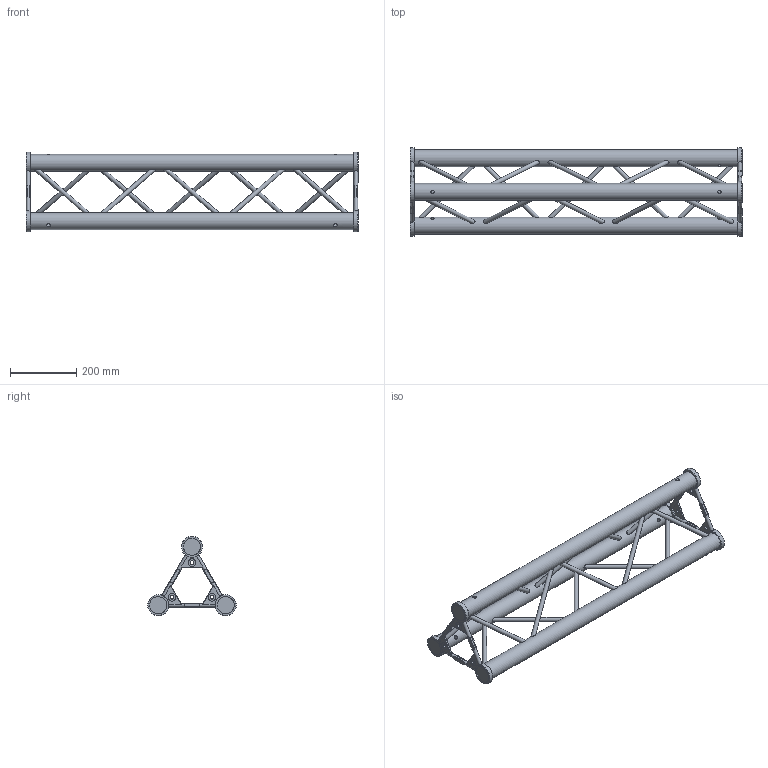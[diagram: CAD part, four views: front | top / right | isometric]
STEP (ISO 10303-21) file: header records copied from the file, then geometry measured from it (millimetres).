
FILE_DESCRIPTION(/* description */ (''),/* implementation_level */ '2;1');
FILE_NAME(/* name */ 'C:\Users\stephan\Desktop\A03\112040014.stp',/* time_stamp */ '2016-01-20T14:32:11+01:00',/* author */ ('Stephan'),/* organization */ (''),/* preprocessor_version */ 'ST-DEVELOPER v15.6',/* originating_system */ 'Autodesk Inventor 2015',/* authorisation */ '');
FILE_SCHEMA (('AUTOMOTIVE_DESIGN { 1 0 10303 214 3 1 1 }'));
Length unit declared in the file: millimetre
Products named in the file (1): 160025612
Bounding box: 1000 x 266.3 x 239.1 mm (x, y, z)
Volume: 6696501.4 mm3; surface area: 720757.7 mm2
Topology: 22 solids, 22 shells, 304 faces, 690 edges, 444 vertices
Faces by surface type: plane 162, cylinder 118, cone 12, torus 12
Full cylindrical faces by diameter (mm): 10.5 x6, 11.5 x12, 12.7 x15, 23.5 x6, 50.8 x3, 51.3 x6, 63.3 x6
Entity records: 9853 total; most frequent: CARTESIAN_POINT 2951, DIRECTION 1296, ORIENTED_EDGE 1248, EDGE_CURVE 594, AXIS2_PLACEMENT_3D 525, EDGE_LOOP 456, VERTEX_POINT 420, STYLED_ITEM 303
